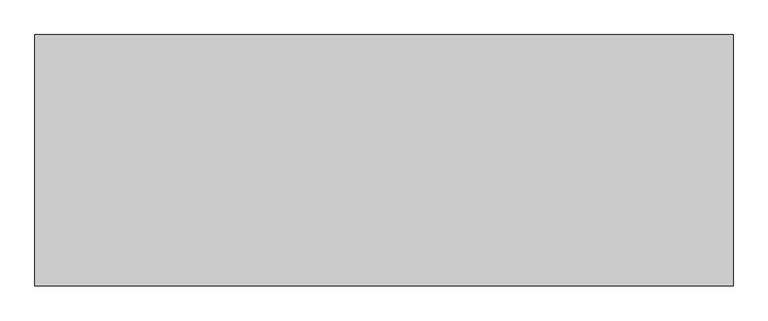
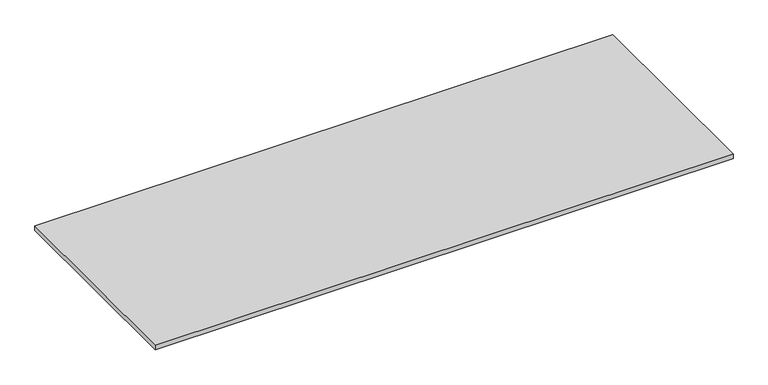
"""IFC4 building model written with IfcOpenShell, lengths in millimetres: proxy geometry, FOUNDATION^STANDARD CREDENZA_WEBSITE DETAIL-BACK."""

from ifc_helpers import new_model, si_unit, origin, origin_with_axes, place, context, project, spatial, polyline, outline, extrude, source, transform, mapped, element, save


def generic_models_5ff7c538(model_context):
    return source(origin(), model_context, "Body", "SweptSolid", [
        extrude(outline(polyline([(38.1, 0.0), (38.1, 850.9), (2400.3, 850.9), (2400.3, 0.0), (38.1, 0.0)])), origin_with_axes(), (0.0, 0.0, 1.0), 19.05),
    ])


if __name__ == "__main__":
    model = new_model("IFC4")
    model_context = context("Model", 3, world=origin())
    ifc_project = project(units=[si_unit("LENGTHUNIT", "METRE", prefix="MILLI")], contexts=[model_context])
    site = spatial("IfcSite", under=ifc_project)
    building = spatial("IfcBuilding", under=site)
    placement = place(None, origin())
    generic_models_shape = generic_models_5ff7c538(model_context)
    element("IfcBuildingElementProxy", 1, Name="FOUNDATION^STANDARD CREDENZA_WEBSITE DETAIL-BACK", ObjectType="FOUNDATION^STANDARD CREDENZA_WEBSITE DETAIL-BACK", at=placement, inside=building, context=model_context, shape_type="MappedRepresentation", body=[
        mapped(generic_models_shape, transform((0.0, 0.0, 0.0), x_axis=(1.0, 0.0, 0.0), y_axis=(0.0, 1.0, 0.0), z_axis=(0.0, 0.0, 1.0))),
    ])
    save(model, "model.ifc")
